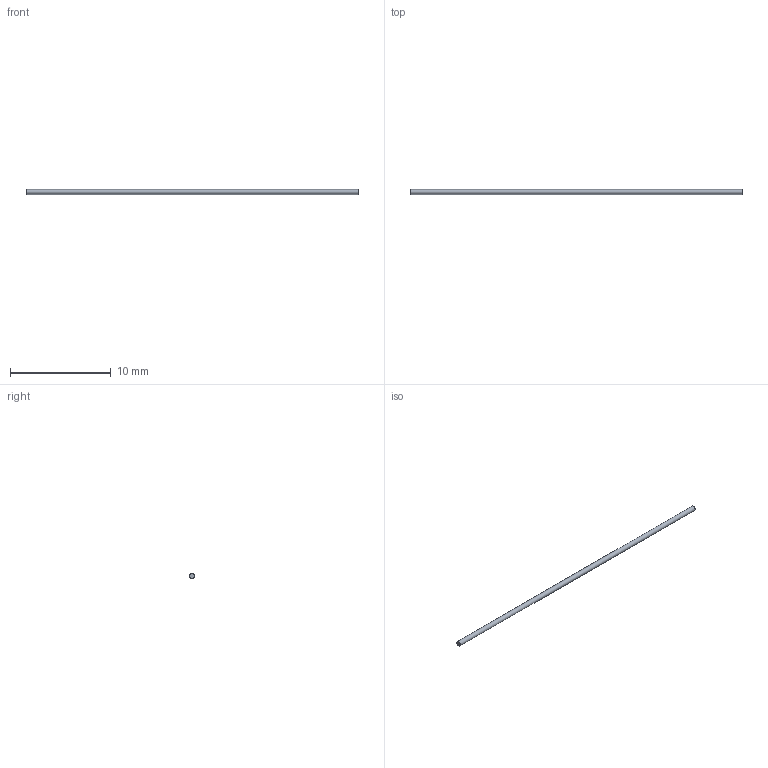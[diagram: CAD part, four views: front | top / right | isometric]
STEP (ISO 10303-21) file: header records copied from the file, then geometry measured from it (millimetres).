
FILE_DESCRIPTION(('FreeCAD Model'),'2;1');
FILE_NAME('Open CASCADE Shape Model','2026-04-07T19:07:43',('FreeCAD'),( 'FreeCAD'),'Open CASCADE STEP processor 7.8','FreeCAD','Unknown');
FILE_SCHEMA(('AUTOMOTIVE_DESIGN { 1 0 10303 214 1 1 1 1 }'));
Length unit declared in the file: millimetre
Products named in the file (1): Open CASCADE STEP translator 7.8 28
Bounding box: 33.02 x 0.5 x 0.5 mm (x, y, z)
Volume: 6.5 mm3; surface area: 52.3 mm2
Topology: 1 solids, 1 shells, 3 faces, 3 edges, 2 vertices
Faces by surface type: plane 2, cylinder 1
Full cylindrical faces by diameter (mm): 0.5 x1
Entity records: 69 total; most frequent: DIRECTION 13, CARTESIAN_POINT 9, AXIS2_PLACEMENT_3D 6, ORIENTED_EDGE 6, ADVANCED_FACE 3, FACE_BOUND 3, EDGE_LOOP 3, EDGE_CURVE 3
